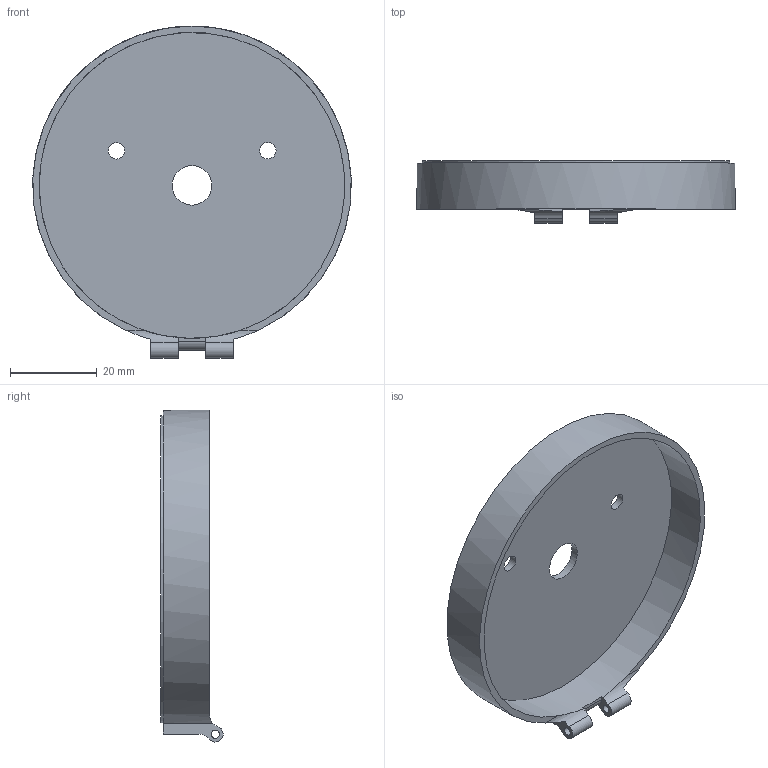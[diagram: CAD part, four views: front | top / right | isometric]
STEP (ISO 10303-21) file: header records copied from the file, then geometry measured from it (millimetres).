
FILE_DESCRIPTION(/* description */ ('STEP AP242 Edition 2','CAx-IF Rec.Pracs.---Representation and Presentation of Product Manufacturing Information (PMI)---4.0---2014-10-13','CAx-IF Rec.Pracs.---3D Tessellated Geometry---0.4---2014-09-14','2;1','CAx-IF Rec.Pracs.---User Defined Attributes---1.5---2016-08-15'),/* implementation_level */ '2;1');
FILE_NAME(/* name */ 'Assembly 1 - Part 1',/* time_stamp */ '2026-04-30T00:36:45Z',/* author */ (''),/* organization */ (''),/* preprocessor_version */ 'ST-DEVELOPER v20',/* originating_system */ 'ONSHAPE BY PTC INC, 1.214',/* authorisation */ ' ');
FILE_SCHEMA (('AP242_MANAGED_MODEL_BASED_3D_ENGINEERING_MIM_LF { 1 0 10303 442 3 1 4 }'));
Length unit declared in the file: metre
Products named in the file (1): Part 1
Bounding box: 73.59 x 14.38 x 76.73 mm (x, y, z)
Volume: 10878 mm3; surface area: 13416.8 mm2
Topology: 1 solids, 1 shells, 25 faces, 70 edges, 48 vertices
Faces by surface type: cylinder 15, plane 10
Full cylindrical faces by diameter (mm): 1.905 x2, 3.81 x2, 9.144 x1, 70.693 x1, 70.968 x1
Entity records: 793 total; most frequent: CARTESIAN_POINT 139, DIRECTION 137, ORIENTED_EDGE 116, EDGE_CURVE 58, AXIS2_PLACEMENT_3D 57, VERTEX_POINT 43, EDGE_LOOP 43, FACE_BOUND 43
